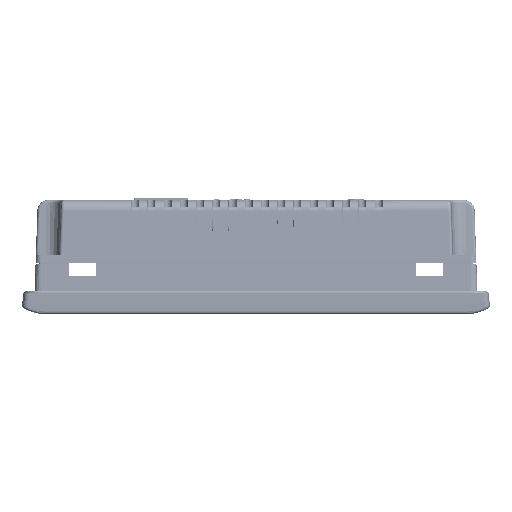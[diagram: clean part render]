
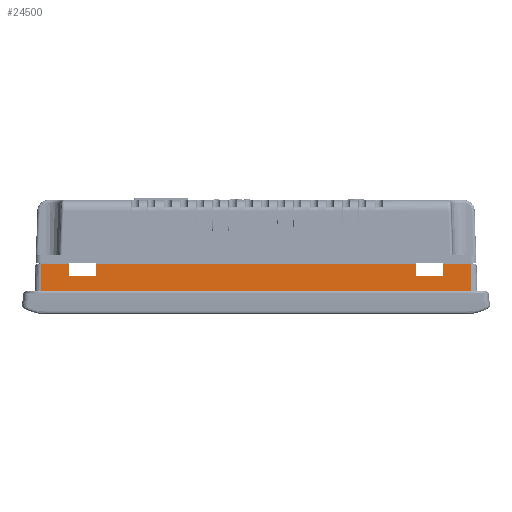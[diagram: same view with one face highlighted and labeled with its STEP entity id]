
A CAD part, left-side view. The second image highlights one B-rep face of the part: STEP entity #24500.
In plain terms, the highlighted planar face has unit normal (-0.999, 0, 0.035).
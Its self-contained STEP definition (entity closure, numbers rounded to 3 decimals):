
#20547=CARTESIAN_POINT('',(-524.641,-122.387,-88.734));
#20548=VERTEX_POINT('',#20547);
#20557=CARTESIAN_POINT('',(-524.267,-122.387,-78.034));
#20558=VERTEX_POINT('',#20557);
#20566=CARTESIAN_POINT('',(-524.267,-122.387,-78.034));
#20567=DIRECTION('',(-0.035,0.,-0.999));
#20568=VECTOR('',#20567,10.707);
#20569=LINE('',#20566,#20568);
#20570=EDGE_CURVE('',#20558,#20548,#20569,.T.);
#23651=CARTESIAN_POINT('',(-524.267,36.613,-78.034));
#23652=VERTEX_POINT('',#23651);
#23660=CARTESIAN_POINT('',(-524.267,26.113,-78.034));
#23661=VERTEX_POINT('',#23660);
#23662=CARTESIAN_POINT('',(-524.267,36.613,-78.034));
#23663=DIRECTION('',(0.0,-1.0,0.0));
#23664=VECTOR('',#23663,10.5);
#23665=LINE('',#23662,#23664);
#23666=EDGE_CURVE('',#23652,#23661,#23665,.T.);
#23783=CARTESIAN_POINT('',(-524.267,-111.887,-78.034));
#23784=VERTEX_POINT('',#23783);
#23791=CARTESIAN_POINT('',(-524.267,-111.887,-78.034));
#23792=DIRECTION('',(0.0,-1.0,0.0));
#23793=VECTOR('',#23792,10.5);
#23794=LINE('',#23791,#23793);
#23795=EDGE_CURVE('',#23784,#20558,#23794,.T.);
#23807=CARTESIAN_POINT('',(-524.267,16.113,-78.034));
#23808=VERTEX_POINT('',#23807);
#23815=CARTESIAN_POINT('',(-524.267,-101.887,-78.034));
#23816=VERTEX_POINT('',#23815);
#23817=CARTESIAN_POINT('',(-524.267,16.113,-78.034));
#23818=DIRECTION('',(0.0,-1.0,0.0));
#23819=VECTOR('',#23818,118.);
#23820=LINE('',#23817,#23819);
#23821=EDGE_CURVE('',#23808,#23816,#23820,.T.);
#24431=CARTESIAN_POINT('',(-524.267,38.613,-78.034));
#24432=DIRECTION('',(-0.999,0.,0.035));
#24433=DIRECTION('',(0.035,0.,0.999));
#24434=AXIS2_PLACEMENT_3D('',#24431,#24432,#24433);
#24435=PLANE('',#24434);
#24436=CARTESIAN_POINT('',(-524.641,36.613,-88.734));
#24437=VERTEX_POINT('',#24436);
#24438=CARTESIAN_POINT('',(-524.641,36.613,-88.734));
#24439=DIRECTION('',(0.0,-1.0,0.0));
#24440=VECTOR('',#24439,159.);
#24441=LINE('',#24438,#24440);
#24442=EDGE_CURVE('',#24437,#20548,#24441,.T.);
#24443=ORIENTED_EDGE('',*,*,#24442,.T.);
#24444=ORIENTED_EDGE('',*,*,#20570,.F.);
#24445=ORIENTED_EDGE('',*,*,#23795,.F.);
#24446=CARTESIAN_POINT('',(-524.417,-111.887,-82.334));
#24447=VERTEX_POINT('',#24446);
#24448=CARTESIAN_POINT('',(-524.267,-111.887,-78.034));
#24449=DIRECTION('',(-0.035,0.,-0.999));
#24450=VECTOR('',#24449,4.303);
#24451=LINE('',#24448,#24450);
#24452=EDGE_CURVE('',#23784,#24447,#24451,.T.);
#24453=ORIENTED_EDGE('',*,*,#24452,.T.);
#24454=CARTESIAN_POINT('',(-524.417,-101.887,-82.334));
#24455=VERTEX_POINT('',#24454);
#24456=CARTESIAN_POINT('',(-524.417,-111.887,-82.334));
#24457=DIRECTION('',(0.0,1.0,0.0));
#24458=VECTOR('',#24457,10.);
#24459=LINE('',#24456,#24458);
#24460=EDGE_CURVE('',#24447,#24455,#24459,.T.);
#24461=ORIENTED_EDGE('',*,*,#24460,.T.);
#24462=CARTESIAN_POINT('',(-524.417,-101.887,-82.334));
#24463=DIRECTION('',(0.035,0.0,0.999));
#24464=VECTOR('',#24463,4.303);
#24465=LINE('',#24462,#24464);
#24466=EDGE_CURVE('',#24455,#23816,#24465,.T.);
#24467=ORIENTED_EDGE('',*,*,#24466,.T.);
#24468=ORIENTED_EDGE('',*,*,#23821,.F.);
#24469=CARTESIAN_POINT('',(-524.417,16.113,-82.334));
#24470=VERTEX_POINT('',#24469);
#24471=CARTESIAN_POINT('',(-524.267,16.113,-78.034));
#24472=DIRECTION('',(-0.035,0.0,-0.999));
#24473=VECTOR('',#24472,4.303);
#24474=LINE('',#24471,#24473);
#24475=EDGE_CURVE('',#23808,#24470,#24474,.T.);
#24476=ORIENTED_EDGE('',*,*,#24475,.T.);
#24477=CARTESIAN_POINT('',(-524.417,26.113,-82.334));
#24478=VERTEX_POINT('',#24477);
#24479=CARTESIAN_POINT('',(-524.417,16.113,-82.334));
#24480=DIRECTION('',(0.0,1.0,0.0));
#24481=VECTOR('',#24480,10.0);
#24482=LINE('',#24479,#24481);
#24483=EDGE_CURVE('',#24470,#24478,#24482,.T.);
#24484=ORIENTED_EDGE('',*,*,#24483,.T.);
#24485=CARTESIAN_POINT('',(-524.417,26.113,-82.334));
#24486=DIRECTION('',(0.035,0.0,0.999));
#24487=VECTOR('',#24486,4.303);
#24488=LINE('',#24485,#24487);
#24489=EDGE_CURVE('',#24478,#23661,#24488,.T.);
#24490=ORIENTED_EDGE('',*,*,#24489,.T.);
#24491=ORIENTED_EDGE('',*,*,#23666,.F.);
#24492=CARTESIAN_POINT('',(-524.641,36.613,-88.734));
#24493=DIRECTION('',(0.035,0.,0.999));
#24494=VECTOR('',#24493,10.707);
#24495=LINE('',#24492,#24494);
#24496=EDGE_CURVE('',#24437,#23652,#24495,.T.);
#24497=ORIENTED_EDGE('',*,*,#24496,.F.);
#24498=EDGE_LOOP('',(#24443,#24444,#24445,#24453,#24461,#24467,#24468,#24476,#24484,#24490,#24491,#24497));
#24499=FACE_OUTER_BOUND('',#24498,.T.);
#24500=ADVANCED_FACE('',(#24499),#24435,.T.);
